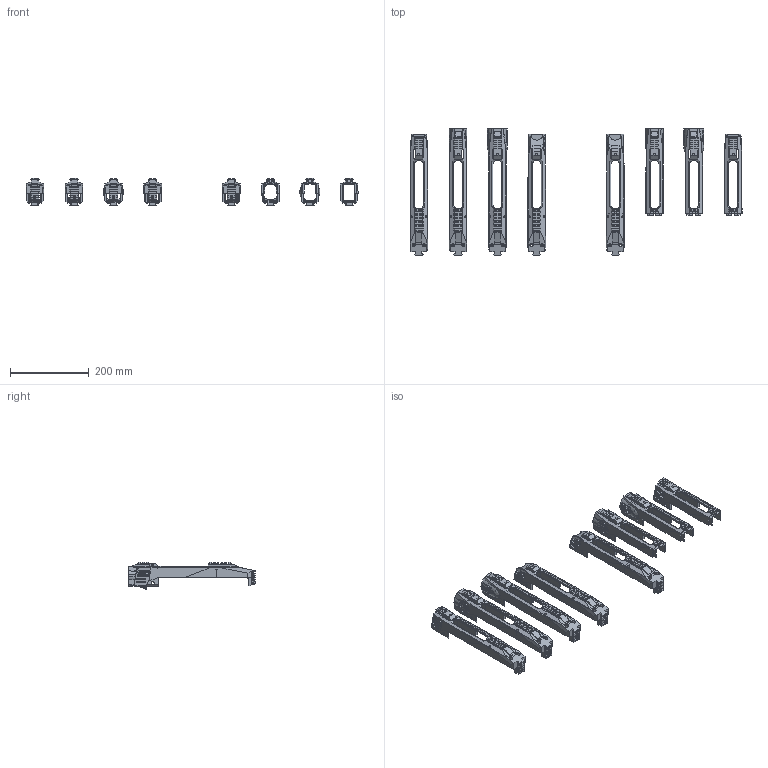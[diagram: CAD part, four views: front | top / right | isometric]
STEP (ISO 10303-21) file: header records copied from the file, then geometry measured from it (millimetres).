
FILE_DESCRIPTION(('STEP AP214'),'1');
FILE_NAME('Top Charging Shrouds Only.stp','2021-07-09T18:17:10',(' '),(' '),'Spatial InterOp 3D',' ',' ');
FILE_SCHEMA(('AUTOMOTIVE_DESIGN { 1 0 10303 214 1 1 1 1 }'));
Length unit declared in the file: metre
Products named in the file (10): Top Charging Shrouds Only; Front Shroud - Standard; Front Shroud - 40mm Open; Front Shroud - 45mm Open; Front Shroud - Open; Rear Shroud - Top Charging; Complete Shroud - Standard; Complete Shroud - 45mm; Complete Shroud - 40mm; Complete Shroud - Open
Assembly tree (9 placements, depth 2):
  Top Charging Shrouds Only
    Front Shroud - Standard
    Front Shroud - 40mm Open
    Front Shroud - 45mm Open
    Front Shroud - Open
    Rear Shroud - Top Charging
    Complete Shroud - Standard
    Complete Shroud - 45mm
    Complete Shroud - 40mm
    Complete Shroud - Open
Bounding box: 845 x 322.24 x 69.3 mm (x, y, z)
Volume: 1150975.6 mm3; surface area: 478614.7 mm2
Topology: 9 solids, 9 shells, 8297 faces, 22082 edges, 13466 vertices
Faces by surface type: cylinder 4074, plane 2436, bspline 1132, sphere 598, torus 49, cone 8
Entity records: 293577 total; most frequent: CARTESIAN_POINT 87146, DIRECTION 44195, ORIENTED_EDGE 43644, EDGE_CURVE 21822, AXIS2_PLACEMENT_3D 16729, VERTEX_POINT 13466, LINE 10737, VECTOR 10737
